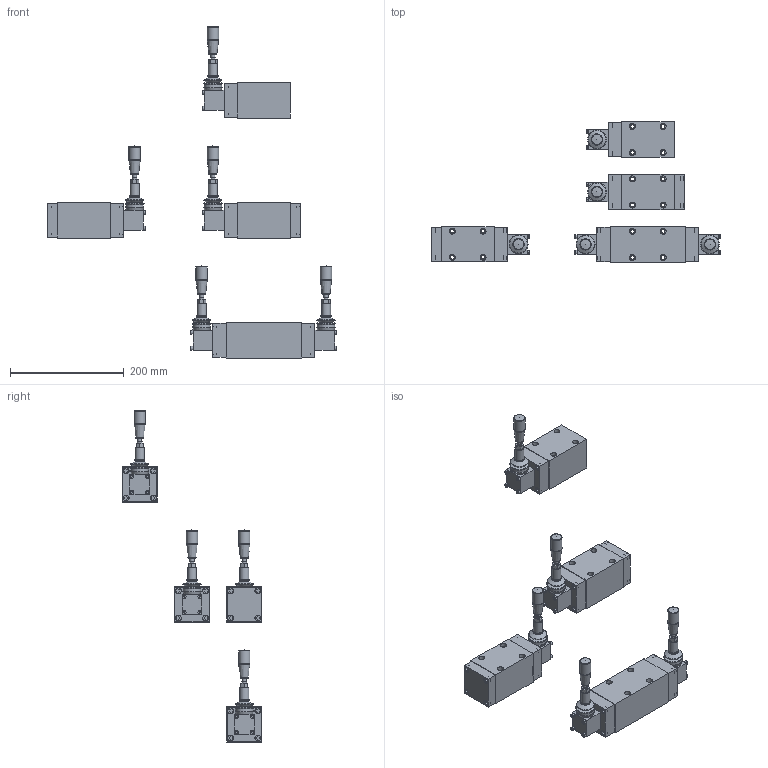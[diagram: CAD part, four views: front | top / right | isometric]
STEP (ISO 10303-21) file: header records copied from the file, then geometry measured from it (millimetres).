
FILE_DESCRIPTION(('Bauteilbeschreibung','HiCAD-Model','HiCAD-STEP-TRANSLATION','Bauteilbeschreibung'),'2;1');
FILE_NAME('C:/_EIGENE_DATEN/DXF_STEP/AH_10_4208.STP','2008-10-14T16:52:03+00:00',('Konstrukteur'),('Konstrukteur Firma GmbH'),' HiCAD neXt 2007, Step 3.1.1212.3C ','HiCAD neXt 2007','confidential');
FILE_SCHEMA(('AUTOMOTIVE_DESIGN { 1 2 10303 214 0 1 1 1 }'));
Length unit declared in the file: millimetre
Products named in the file (107): AH_10_4208; AH22101A; AA67C931; FLANSCH; AA546600; AA5466000; FALTENBA; GRIFF; IN6KTM4; IN6KTM40; IN6KTM41; IN6KTM42; IN6KTM43; CEA93D60; CEA93D600; IN6KTM6; IN6KTM60; IN6KTM61; IN6KTM62; IN6KTM63; AH32101A; D1ACE57E; A205B8BF; A275F443; A275F4430; IN6KTM64; IN6KTM65; IN6KTM66; IN6KTM67; IN6KTM68; CEA93D601; CEA93D602; IN6KTM69; IN6KTM610; IN6KTM611; IN6KTM612; IN6KTM613; AA5466001; AA5466002; FALTENBA0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
Assembly tree (106 placements, depth 6):
  AH_10_4208
    AH22101A
      AA67C931
        FLANSCH
        AA546600
        AA5466000
          FALTENBA
          GRIFF
          IN6KTM4
            IN6KTM40
            IN6KTM41
            IN6KTM42
            IN6KTM43
        CEA93D60
        CEA93D600
          IN6KTM6
            IN6KTM60
            IN6KTM61
            IN6KTM62
            IN6KTM63
    AH32101A
      D1ACE57E
        A205B8BF
        A275F443
        A275F4430
          IN6KTM64
            IN6KTM65
            IN6KTM66
            IN6KTM67
            IN6KTM68
        CEA93D601
        CEA93D602
          IN6KTM69
            IN6KTM610
            IN6KTM611
            IN6KTM612
            IN6KTM613
        AA5466001
        AA5466002
          FALTENBA0
          GRIFF0
          IN6KTM44
            IN6KTM45
            IN6KTM46
            IN6KTM47
            IN6KTM48
    AH22100B_AH32100B
      BE0836FC
        A205B8BF0
        CEA93D603
        CEA93D604
          IN6KTM614
            IN6KTM615
            IN6KTM616
            IN6KTM617
            IN6KTM618
        A275F4431
        A275F4432
          IN6KTM619
            IN6KTM620
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Bounding box: 509.8 x 246 x 584.41 mm (x, y, z)
Volume: 2434632.8 mm3; surface area: 369756.7 mm2
Topology: 74 solids, 74 shells, 1104 faces, 2370 edges, 1594 vertices
Faces by surface type: plane 710, cylinder 259, cone 105, torus 25, sphere 5
Full cylindrical faces by diameter (mm): 4 x20, 4.5 x20, 6 x28, 6.5 x44, 7 x20, 7.12 x5, 8 x5, 10 x28, 10.5 x44, 16 x5, 16.5 x5, 16.9 x20, 18.5 x5, 20 x5, 31 x5
Entity records: 31933 total; most frequent: CARTESIAN_POINT 7117, DIRECTION 5074, ORIENTED_EDGE 3838, AXIS2_PLACEMENT_3D 1959, EDGE_CURVE 1919, EDGE_LOOP 1746, VERTEX_POINT 1482, LINE 1156
